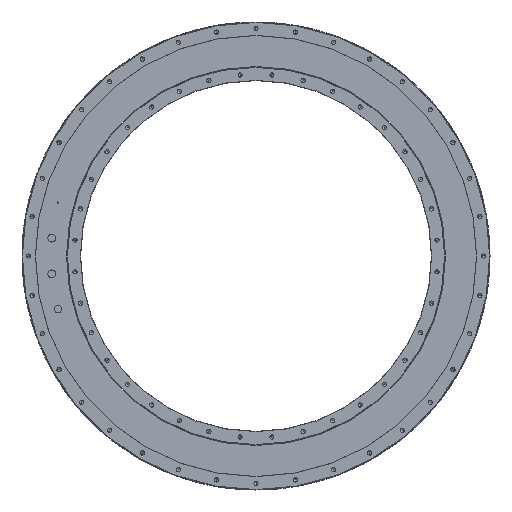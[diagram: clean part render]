
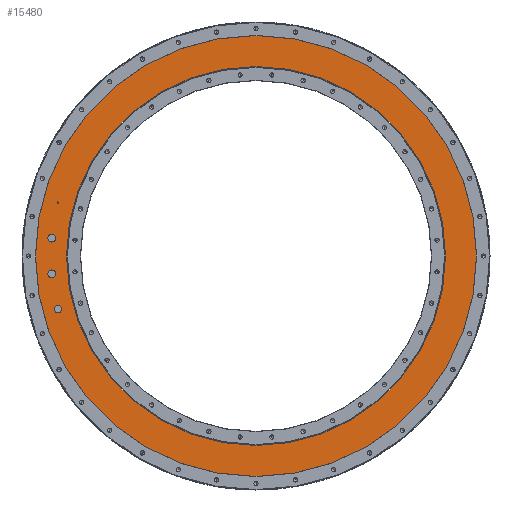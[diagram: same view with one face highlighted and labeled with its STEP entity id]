
A CAD part, left-side view. The second image highlights one B-rep face of the part: STEP entity #15480.
In plain terms, the highlighted planar face has unit normal (-1, 0, 0).
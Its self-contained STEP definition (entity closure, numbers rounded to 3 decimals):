
#15059=CARTESIAN_POINT('',(-210.,0.,0.));
#15060=DIRECTION('',(-1.,0.,0.));
#15061=DIRECTION('',(0.,1.,0.));
#15062=AXIS2_PLACEMENT_3D('',#15059,#15060,#15061);
#15064=CARTESIAN_POINT('',(-210.,0.,0.));
#15065=DIRECTION('',(1.,0.,0.));
#15066=DIRECTION('',(0.,1.,0.));
#15067=AXIS2_PLACEMENT_3D('',#15064,#15065,#15066);
#15069=CARTESIAN_POINT('',(-210.,0.,0.));
#15070=DIRECTION('',(-1.,0.,0.));
#15071=DIRECTION('',(0.,1.,0.));
#15072=AXIS2_PLACEMENT_3D('',#15069,#15070,#15071);
#15074=CARTESIAN_POINT('',(-210.,0.,0.));
#15075=DIRECTION('',(1.,0.,0.));
#15076=DIRECTION('',(0.,1.,0.));
#15077=AXIS2_PLACEMENT_3D('',#15074,#15075,#15076);
#15079=CARTESIAN_POINT('',(-210.,511.941,-137.174));
#15080=DIRECTION('',(-1.,0.,0.));
#15081=DIRECTION('',(0.,0.,1.));
#15082=AXIS2_PLACEMENT_3D('',#15079,#15080,#15081);
#15084=CARTESIAN_POINT('',(-210.,511.941,-137.174));
#15085=DIRECTION('',(-1.,0.,0.));
#15086=DIRECTION('',(0.,0.,-1.));
#15087=AXIS2_PLACEMENT_3D('',#15084,#15085,#15086);
#15089=CARTESIAN_POINT('',(-210.,511.941,137.174));
#15090=DIRECTION('',(-1.,0.,0.));
#15091=DIRECTION('',(0.,0.,1.));
#15092=AXIS2_PLACEMENT_3D('',#15089,#15090,#15091);
#15094=CARTESIAN_POINT('',(-210.,511.941,137.174));
#15095=DIRECTION('',(-1.,0.,0.));
#15096=DIRECTION('',(0.,0.,-1.));
#15097=AXIS2_PLACEMENT_3D('',#15094,#15095,#15096);
#15099=CARTESIAN_POINT('',(-210.,527.983,46.193));
#15100=DIRECTION('',(-1.,0.,0.));
#15101=DIRECTION('',(0.,0.,1.));
#15102=AXIS2_PLACEMENT_3D('',#15099,#15100,#15101);
#15104=CARTESIAN_POINT('',(-210.,527.983,46.193));
#15105=DIRECTION('',(-1.,0.,0.));
#15106=DIRECTION('',(0.,0.,-1.));
#15107=AXIS2_PLACEMENT_3D('',#15104,#15105,#15106);
#15109=CARTESIAN_POINT('',(-210.,527.983,-46.193));
#15110=DIRECTION('',(-1.,0.,0.));
#15111=DIRECTION('',(0.,0.,1.));
#15112=AXIS2_PLACEMENT_3D('',#15109,#15110,#15111);
#15114=CARTESIAN_POINT('',(-210.,527.983,-46.193));
#15115=DIRECTION('',(-1.,0.,0.));
#15116=DIRECTION('',(0.,0.,-1.));
#15117=AXIS2_PLACEMENT_3D('',#15114,#15115,#15116);
#15268=CARTESIAN_POINT('',(-210.,570.,0.));
#15270=VERTEX_POINT('',#15268);
#15271=CARTESIAN_POINT('',(-210.,490.,0.));
#15273=VERTEX_POINT('',#15271);
#15288=CARTESIAN_POINT('',(-210.,-570.,0.));
#15290=VERTEX_POINT('',#15288);
#15291=CARTESIAN_POINT('',(-210.,-490.,0.));
#15293=VERTEX_POINT('',#15291);
#15323=CARTESIAN_POINT('',(-210.,511.941,-127.174));
#15324=CARTESIAN_POINT('',(-210.,511.941,-147.174));
#15325=VERTEX_POINT('',#15323);
#15326=VERTEX_POINT('',#15324);
#15327=CARTESIAN_POINT('',(-210.,511.941,139.674));
#15328=CARTESIAN_POINT('',(-210.,511.941,134.674));
#15329=VERTEX_POINT('',#15327);
#15330=VERTEX_POINT('',#15328);
#15331=CARTESIAN_POINT('',(-210.,527.983,56.193));
#15332=CARTESIAN_POINT('',(-210.,527.983,36.193));
#15333=VERTEX_POINT('',#15331);
#15334=VERTEX_POINT('',#15332);
#15335=CARTESIAN_POINT('',(-210.,527.983,-36.193));
#15336=CARTESIAN_POINT('',(-210.,527.983,-56.193));
#15337=VERTEX_POINT('',#15335);
#15338=VERTEX_POINT('',#15336);
#15441=CARTESIAN_POINT('',(-210.,0.,0.));
#15442=DIRECTION('',(1.,0.,0.));
#15443=DIRECTION('',(0.,-1.,0.));
#15444=AXIS2_PLACEMENT_3D('',#15441,#15442,#15443);
#15445=PLANE('',#15444);
#15447=ORIENTED_EDGE('',*,*,#15446,.F.);
#15449=ORIENTED_EDGE('',*,*,#15448,.T.);
#15450=EDGE_LOOP('',(#15447,#15449));
#15451=FACE_OUTER_BOUND('',#15450,.F.);
#15452=ORIENTED_EDGE('',*,*,#15434,.F.);
#15453=ORIENTED_EDGE('',*,*,#15423,.T.);
#15454=EDGE_LOOP('',(#15452,#15453));
#15455=FACE_BOUND('',#15454,.F.);
#15457=ORIENTED_EDGE('',*,*,#15456,.T.);
#15459=ORIENTED_EDGE('',*,*,#15458,.T.);
#15460=EDGE_LOOP('',(#15457,#15459));
#15461=FACE_BOUND('',#15460,.F.);
#15463=ORIENTED_EDGE('',*,*,#15462,.T.);
#15465=ORIENTED_EDGE('',*,*,#15464,.T.);
#15466=EDGE_LOOP('',(#15463,#15465));
#15467=FACE_BOUND('',#15466,.F.);
#15469=ORIENTED_EDGE('',*,*,#15468,.T.);
#15471=ORIENTED_EDGE('',*,*,#15470,.T.);
#15472=EDGE_LOOP('',(#15469,#15471));
#15473=FACE_BOUND('',#15472,.F.);
#15475=ORIENTED_EDGE('',*,*,#15474,.T.);
#15477=ORIENTED_EDGE('',*,*,#15476,.T.);
#15478=EDGE_LOOP('',(#15475,#15477));
#15479=FACE_BOUND('',#15478,.F.);
#15480=ADVANCED_FACE('',(#15451,#15455,#15461,#15467,#15473,#15479),#15445,.F.);
#15063=CIRCLE('',#15062,490.);
#15068=CIRCLE('',#15067,490.);
#15073=CIRCLE('',#15072,570.);
#15078=CIRCLE('',#15077,570.);
#15083=CIRCLE('',#15082,10.);
#15088=CIRCLE('',#15087,10.);
#15093=CIRCLE('',#15092,2.5);
#15098=CIRCLE('',#15097,2.5);
#15103=CIRCLE('',#15102,10.);
#15108=CIRCLE('',#15107,10.);
#15113=CIRCLE('',#15112,10.);
#15118=CIRCLE('',#15117,10.);
#15423=EDGE_CURVE('',#15273,#15293,#15063,.T.);
#15434=EDGE_CURVE('',#15273,#15293,#15068,.T.);
#15446=EDGE_CURVE('',#15270,#15290,#15073,.T.);
#15448=EDGE_CURVE('',#15270,#15290,#15078,.T.);
#15456=EDGE_CURVE('',#15325,#15326,#15083,.T.);
#15458=EDGE_CURVE('',#15326,#15325,#15088,.T.);
#15462=EDGE_CURVE('',#15329,#15330,#15093,.T.);
#15464=EDGE_CURVE('',#15330,#15329,#15098,.T.);
#15468=EDGE_CURVE('',#15333,#15334,#15103,.T.);
#15470=EDGE_CURVE('',#15334,#15333,#15108,.T.);
#15474=EDGE_CURVE('',#15337,#15338,#15113,.T.);
#15476=EDGE_CURVE('',#15338,#15337,#15118,.T.);
